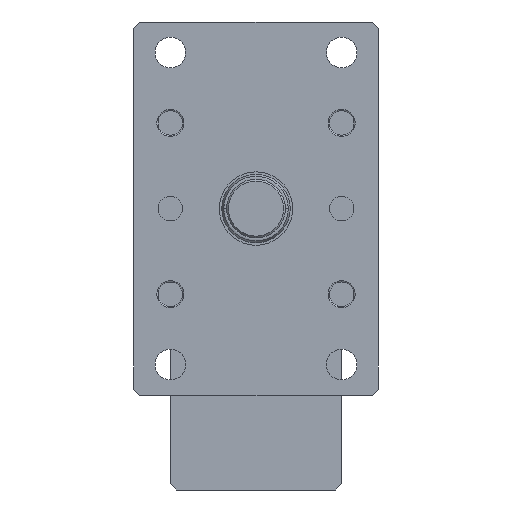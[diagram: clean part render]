
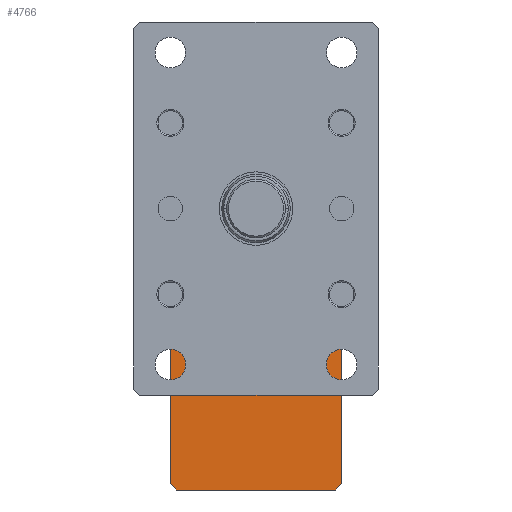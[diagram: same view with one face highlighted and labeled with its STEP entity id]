
A CAD part, left-side view. The second image highlights one B-rep face of the part: STEP entity #4766.
In plain terms, the highlighted planar face has unit normal (-1, 0, 0).
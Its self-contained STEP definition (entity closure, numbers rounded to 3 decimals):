
#334 = DIRECTION ( 'NONE',  ( 0., 0.707, 0.707 ) ) ;
#379 = FACE_OUTER_BOUND ( 'NONE', #2876, .T. ) ;
#404 = CARTESIAN_POINT ( 'NONE',  ( 327.5, -65., -230. ) ) ;
#411 = ORIENTED_EDGE ( 'NONE', *, *, #5915, .F. ) ;
#889 = CARTESIAN_POINT ( 'NONE',  ( 327.5, 70., -230. ) ) ;
#972 = CARTESIAN_POINT ( 'NONE',  ( 327.5, 70., -95. ) ) ;
#1148 = CARTESIAN_POINT ( 'NONE',  ( 327.5, 70., -230. ) ) ;
#1161 = EDGE_CURVE ( 'NONE', #6934, #5614, #4577, .T. ) ;
#1180 = VERTEX_POINT ( 'NONE', #7879 ) ;
#1217 = LINE ( 'NONE', #7625, #4472 ) ;
#1326 = DIRECTION ( 'NONE',  ( 0., -0.707, -0.707 ) ) ;
#1379 = EDGE_CURVE ( 'NONE', #5804, #6934, #1217, .T. ) ;
#1380 = DIRECTION ( 'NONE',  ( 0., 0., 1. ) ) ;
#1384 = VECTOR ( 'NONE', #334, 1000. ) ;
#1545 = CARTESIAN_POINT ( 'NONE',  ( 327.5, -70., -225. ) ) ;
#1554 = CARTESIAN_POINT ( 'NONE',  ( 327.5, 65., -90. ) ) ;
#1592 = DIRECTION ( 'NONE',  ( 0., 1., 0. ) ) ;
#1665 = DIRECTION ( 'NONE',  ( 0., 0.707, -0.707 ) ) ;
#1848 = DIRECTION ( 'NONE',  ( 0., 1., 0. ) ) ;
#2040 = ORIENTED_EDGE ( 'NONE', *, *, #5896, .F. ) ;
#2285 = VECTOR ( 'NONE', #3904, 1000. ) ;
#2809 = LINE ( 'NONE', #404, #6245 ) ;
#2834 = DIRECTION ( 'NONE',  ( 0., 1., 0. ) ) ;
#2876 = EDGE_LOOP ( 'NONE', ( #4828, #4426, #8379, #8513, #2040, #4159, #411, #5577 ) ) ;
#3110 = VERTEX_POINT ( 'NONE', #3147 ) ;
#3111 = CARTESIAN_POINT ( 'NONE',  ( 327.5, 70., -225. ) ) ;
#3147 = CARTESIAN_POINT ( 'NONE',  ( 327.5, -65., -230. ) ) ;
#3162 = EDGE_CURVE ( 'NONE', #3110, #6409, #2809, .T. ) ;
#3177 = VECTOR ( 'NONE', #1665, 1000. ) ;
#3566 = LINE ( 'NONE', #7584, #7209 ) ;
#3884 = EDGE_CURVE ( 'NONE', #5273, #5804, #8713, .T. ) ;
#3904 = DIRECTION ( 'NONE',  ( 0., 0., 1. ) ) ;
#4150 = EDGE_CURVE ( 'NONE', #5768, #1180, #7191, .T. ) ;
#4159 = ORIENTED_EDGE ( 'NONE', *, *, #4150, .T. ) ;
#4339 = LINE ( 'NONE', #1148, #5727 ) ;
#4426 = ORIENTED_EDGE ( 'NONE', *, *, #3884, .T. ) ;
#4472 = VECTOR ( 'NONE', #2834, 1000. ) ;
#4577 = LINE ( 'NONE', #972, #3177 ) ;
#4766 = ADVANCED_FACE ( 'NONE', ( #379 ), #7014, .F. ) ;
#4828 = ORIENTED_EDGE ( 'NONE', *, *, #5528, .T. ) ;
#5154 = VECTOR ( 'NONE', #1326, 1000. ) ;
#5234 = DIRECTION ( 'NONE',  ( 0., -0.707, 0.707 ) ) ;
#5273 = VERTEX_POINT ( 'NONE', #8487 ) ;
#5528 = EDGE_CURVE ( 'NONE', #6409, #5273, #3566, .T. ) ;
#5577 = ORIENTED_EDGE ( 'NONE', *, *, #3162, .T. ) ;
#5614 = VERTEX_POINT ( 'NONE', #6337 ) ;
#5720 = DIRECTION ( 'NONE',  ( 1., 0., 0. ) ) ;
#5727 = VECTOR ( 'NONE', #1848, 1000. ) ;
#5768 = VERTEX_POINT ( 'NONE', #3111 ) ;
#5804 = VERTEX_POINT ( 'NONE', #6553 ) ;
#5859 = CARTESIAN_POINT ( 'NONE',  ( 327.5, -70., -95. ) ) ;
#5896 = EDGE_CURVE ( 'NONE', #5768, #5614, #7778, .T. ) ;
#5915 = EDGE_CURVE ( 'NONE', #3110, #1180, #4339, .T. ) ;
#6195 = AXIS2_PLACEMENT_3D ( 'NONE', #889, #5720, #1592 ) ;
#6245 = VECTOR ( 'NONE', #5234, 1000. ) ;
#6337 = CARTESIAN_POINT ( 'NONE',  ( 327.5, 70., -95. ) ) ;
#6409 = VERTEX_POINT ( 'NONE', #1545 ) ;
#6553 = CARTESIAN_POINT ( 'NONE',  ( 327.5, -65., -90. ) ) ;
#6934 = VERTEX_POINT ( 'NONE', #1554 ) ;
#7014 = PLANE ( 'NONE',  #6195 ) ;
#7191 = LINE ( 'NONE', #7533, #5154 ) ;
#7209 = VECTOR ( 'NONE', #1380, 1000. ) ;
#7533 = CARTESIAN_POINT ( 'NONE',  ( 327.5, 65., -230. ) ) ;
#7584 = CARTESIAN_POINT ( 'NONE',  ( 327.5, -70., -230. ) ) ;
#7625 = CARTESIAN_POINT ( 'NONE',  ( 327.5, 70., -90. ) ) ;
#7778 = LINE ( 'NONE', #8027, #2285 ) ;
#7879 = CARTESIAN_POINT ( 'NONE',  ( 327.5, 65., -230. ) ) ;
#8027 = CARTESIAN_POINT ( 'NONE',  ( 327.5, 70., -230. ) ) ;
#8379 = ORIENTED_EDGE ( 'NONE', *, *, #1379, .T. ) ;
#8487 = CARTESIAN_POINT ( 'NONE',  ( 327.5, -70., -95. ) ) ;
#8513 = ORIENTED_EDGE ( 'NONE', *, *, #1161, .T. ) ;
#8713 = LINE ( 'NONE', #5859, #1384 ) ;
